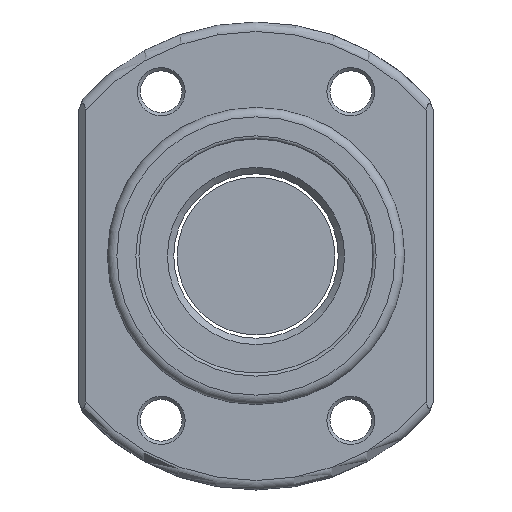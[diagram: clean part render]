
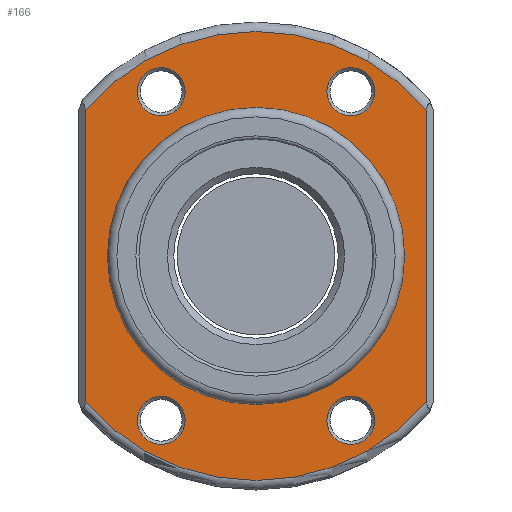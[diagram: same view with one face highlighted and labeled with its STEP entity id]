
A CAD part, front view. The second image highlights one B-rep face of the part: STEP entity #166.
In plain terms, the highlighted planar face has unit normal (0, -1, 0).
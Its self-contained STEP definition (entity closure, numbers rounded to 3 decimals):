
#59=LINE('',#1055,#83);
#60=LINE('',#1059,#84);
#83=VECTOR('',#851,1.);
#84=VECTOR('',#854,1.);
#128=PLANE('',#746);
#166=ADVANCED_FACE('',(#224,#225,#226,#227,#228,#229),#128,.T.);
#224=FACE_BOUND('',#295,.T.);
#225=FACE_BOUND('',#296,.T.);
#226=FACE_BOUND('',#297,.T.);
#227=FACE_BOUND('',#298,.T.);
#228=FACE_BOUND('',#299,.T.);
#229=FACE_BOUND('',#300,.T.);
#295=EDGE_LOOP('',(#384));
#296=EDGE_LOOP('',(#385));
#297=EDGE_LOOP('',(#386));
#298=EDGE_LOOP('',(#387));
#299=EDGE_LOOP('',(#388,#389,#390,#391));
#300=EDGE_LOOP('',(#392));
#384=ORIENTED_EDGE('',*,*,#612,.T.);
#385=ORIENTED_EDGE('',*,*,#613,.T.);
#386=ORIENTED_EDGE('',*,*,#614,.T.);
#387=ORIENTED_EDGE('',*,*,#615,.T.);
#388=ORIENTED_EDGE('',*,*,#616,.T.);
#389=ORIENTED_EDGE('',*,*,#617,.T.);
#390=ORIENTED_EDGE('',*,*,#618,.T.);
#391=ORIENTED_EDGE('',*,*,#619,.T.);
#392=ORIENTED_EDGE('',*,*,#620,.F.);
#546=VERTEX_POINT('',#1045);
#547=VERTEX_POINT('',#1047);
#548=VERTEX_POINT('',#1049);
#549=VERTEX_POINT('',#1051);
#550=VERTEX_POINT('',#1053);
#551=VERTEX_POINT('',#1054);
#552=VERTEX_POINT('',#1056);
#553=VERTEX_POINT('',#1058);
#554=VERTEX_POINT('',#1061);
#612=EDGE_CURVE('',#546,#546,#692,.T.);
#613=EDGE_CURVE('',#547,#547,#693,.T.);
#614=EDGE_CURVE('',#548,#548,#694,.T.);
#615=EDGE_CURVE('',#549,#549,#695,.T.);
#616=EDGE_CURVE('',#550,#551,#696,.T.);
#617=EDGE_CURVE('',#551,#552,#59,.T.);
#618=EDGE_CURVE('',#552,#553,#697,.T.);
#619=EDGE_CURVE('',#553,#550,#60,.T.);
#620=EDGE_CURVE('',#554,#554,#698,.T.);
#692=CIRCLE('',#739,3.8);
#693=CIRCLE('',#740,3.8);
#694=CIRCLE('',#741,3.8);
#695=CIRCLE('',#742,3.8);
#696=CIRCLE('',#743,35.5);
#697=CIRCLE('',#744,35.5);
#698=CIRCLE('',#745,23.5);
#739=AXIS2_PLACEMENT_3D('',#1044,#841,#842);
#740=AXIS2_PLACEMENT_3D('',#1046,#843,#844);
#741=AXIS2_PLACEMENT_3D('',#1048,#845,#846);
#742=AXIS2_PLACEMENT_3D('',#1050,#847,#848);
#743=AXIS2_PLACEMENT_3D('',#1052,#849,#850);
#744=AXIS2_PLACEMENT_3D('',#1057,#852,#853);
#745=AXIS2_PLACEMENT_3D('',#1060,#855,#856);
#746=AXIS2_PLACEMENT_3D('',#1062,#857,#858);
#841=DIRECTION('',(0.,1.,0.));
#842=DIRECTION('',(0.,0.,-1.));
#843=DIRECTION('',(0.,1.,0.));
#844=DIRECTION('',(0.,0.,-1.));
#845=DIRECTION('',(0.,1.,0.));
#846=DIRECTION('',(0.,0.,-1.));
#847=DIRECTION('',(0.,1.,0.));
#848=DIRECTION('',(0.,0.,-1.));
#849=DIRECTION('',(0.,-1.,0.));
#850=DIRECTION('',(0.,0.,-1.));
#851=DIRECTION('',(0.,0.,-1.));
#852=DIRECTION('',(0.,-1.,0.));
#853=DIRECTION('',(0.,0.,-1.));
#854=DIRECTION('',(0.,0.,1.));
#855=DIRECTION('',(0.,-1.,0.));
#856=DIRECTION('',(1.,0.,0.));
#857=DIRECTION('',(0.,-1.,0.));
#858=DIRECTION('',(0.,0.,-1.));
#1044=CARTESIAN_POINT('',(15.,0.,25.981));
#1045=CARTESIAN_POINT('',(15.,0.,22.181));
#1046=CARTESIAN_POINT('',(-15.,0.,25.981));
#1047=CARTESIAN_POINT('',(-15.,0.,22.181));
#1048=CARTESIAN_POINT('',(-15.,0.,-25.981));
#1049=CARTESIAN_POINT('',(-15.,0.,-29.781));
#1050=CARTESIAN_POINT('',(15.,0.,-25.981));
#1051=CARTESIAN_POINT('',(15.,0.,-29.781));
#1052=CARTESIAN_POINT('',(0.,0.,0.));
#1053=CARTESIAN_POINT('',(27.,0.,23.049));
#1054=CARTESIAN_POINT('',(-27.,0.,23.049));
#1055=CARTESIAN_POINT('',(-27.,0.,-21.823));
#1056=CARTESIAN_POINT('',(-27.,0.,-23.049));
#1057=CARTESIAN_POINT('',(0.,0.,0.));
#1058=CARTESIAN_POINT('',(27.,0.,-23.049));
#1059=CARTESIAN_POINT('',(27.,0.,21.823));
#1060=CARTESIAN_POINT('',(0.,0.,0.));
#1061=CARTESIAN_POINT('',(23.5,0.,0.));
#1062=CARTESIAN_POINT('',(0.,0.,0.));
